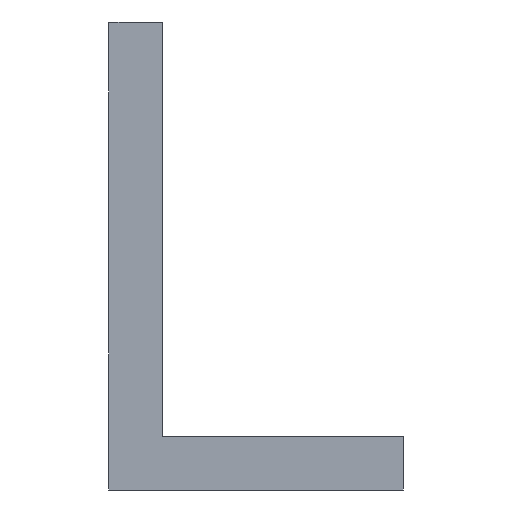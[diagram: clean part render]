
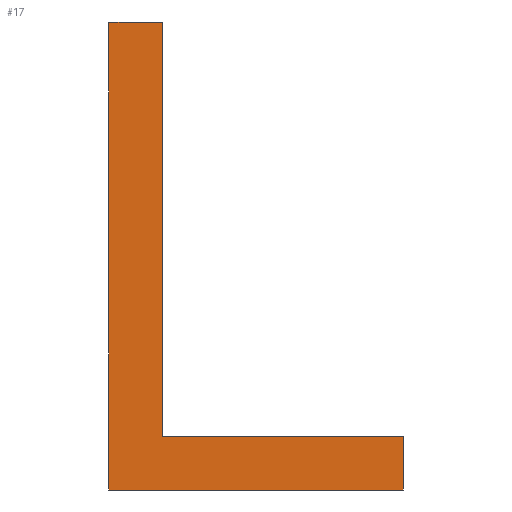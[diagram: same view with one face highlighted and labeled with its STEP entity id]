
A CAD part, left-side view. The second image highlights one B-rep face of the part: STEP entity #17.
In plain terms, the highlighted planar face has unit normal (-1, 0, 0).
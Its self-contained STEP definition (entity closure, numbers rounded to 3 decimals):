
#17 = ADVANCED_FACE('',(#18),#32,.F.);
#18 = FACE_BOUND('',#19,.F.);
#19 = EDGE_LOOP('',(#20,#55,#83,#111,#139,#167));
#20 = ORIENTED_EDGE('',*,*,#21,.F.);
#21 = EDGE_CURVE('',#22,#24,#26,.T.);
#22 = VERTEX_POINT('',#23);
#23 = CARTESIAN_POINT('',(-20.,-11.,4.));
#24 = VERTEX_POINT('',#25);
#25 = CARTESIAN_POINT('',(-20.,7.,4.));
#26 = SURFACE_CURVE('',#27,(#31,#43),.PCURVE_S1.);
#27 = LINE('',#28,#29);
#28 = CARTESIAN_POINT('',(-20.,-11.,4.));
#29 = VECTOR('',#30,1.);
#30 = DIRECTION('',(0.,1.,0.));
#31 = PCURVE('',#32,#37);
#32 = PLANE('',#33);
#33 = AXIS2_PLACEMENT_3D('',#34,#35,#36);
#34 = CARTESIAN_POINT('',(-20.,-11.,0.));
#35 = DIRECTION('',(1.,0.,0.));
#36 = DIRECTION('',(0.,0.,1.));
#37 = DEFINITIONAL_REPRESENTATION('',(#38),#42);
#38 = LINE('',#39,#40);
#39 = CARTESIAN_POINT('',(4.,0.));
#40 = VECTOR('',#41,1.);
#41 = DIRECTION('',(0.,-1.));
#42 = ( GEOMETRIC_REPRESENTATION_CONTEXT(2) 
PARAMETRIC_REPRESENTATION_CONTEXT() REPRESENTATION_CONTEXT('2D SPACE',''
  ) );
#43 = PCURVE('',#44,#49);
#44 = PLANE('',#45);
#45 = AXIS2_PLACEMENT_3D('',#46,#47,#48);
#46 = CARTESIAN_POINT('',(-20.,-11.,4.));
#47 = DIRECTION('',(0.,0.,1.));
#48 = DIRECTION('',(1.,0.,0.));
#49 = DEFINITIONAL_REPRESENTATION('',(#50),#54);
#50 = LINE('',#51,#52);
#51 = CARTESIAN_POINT('',(0.,0.));
#52 = VECTOR('',#53,1.);
#53 = DIRECTION('',(0.,1.));
#54 = ( GEOMETRIC_REPRESENTATION_CONTEXT(2) 
PARAMETRIC_REPRESENTATION_CONTEXT() REPRESENTATION_CONTEXT('2D SPACE',''
  ) );
#55 = ORIENTED_EDGE('',*,*,#56,.F.);
#56 = EDGE_CURVE('',#57,#22,#59,.T.);
#57 = VERTEX_POINT('',#58);
#58 = CARTESIAN_POINT('',(-20.,-11.,0.));
#59 = SURFACE_CURVE('',#60,(#64,#71),.PCURVE_S1.);
#60 = LINE('',#61,#62);
#61 = CARTESIAN_POINT('',(-20.,-11.,0.));
#62 = VECTOR('',#63,1.);
#63 = DIRECTION('',(0.,0.,1.));
#64 = PCURVE('',#32,#65);
#65 = DEFINITIONAL_REPRESENTATION('',(#66),#70);
#66 = LINE('',#67,#68);
#67 = CARTESIAN_POINT('',(0.,0.));
#68 = VECTOR('',#69,1.);
#69 = DIRECTION('',(1.,0.));
#70 = ( GEOMETRIC_REPRESENTATION_CONTEXT(2) 
PARAMETRIC_REPRESENTATION_CONTEXT() REPRESENTATION_CONTEXT('2D SPACE',''
  ) );
#71 = PCURVE('',#72,#77);
#72 = PLANE('',#73);
#73 = AXIS2_PLACEMENT_3D('',#74,#75,#76);
#74 = CARTESIAN_POINT('',(-20.,-11.,0.));
#75 = DIRECTION('',(0.,1.,0.));
#76 = DIRECTION('',(0.,0.,1.));
#77 = DEFINITIONAL_REPRESENTATION('',(#78),#82);
#78 = LINE('',#79,#80);
#79 = CARTESIAN_POINT('',(0.,0.));
#80 = VECTOR('',#81,1.);
#81 = DIRECTION('',(1.,0.));
#82 = ( GEOMETRIC_REPRESENTATION_CONTEXT(2) 
PARAMETRIC_REPRESENTATION_CONTEXT() REPRESENTATION_CONTEXT('2D SPACE',''
  ) );
#83 = ORIENTED_EDGE('',*,*,#84,.F.);
#84 = EDGE_CURVE('',#85,#57,#87,.T.);
#85 = VERTEX_POINT('',#86);
#86 = CARTESIAN_POINT('',(-20.,11.,0.));
#87 = SURFACE_CURVE('',#88,(#92,#99),.PCURVE_S1.);
#88 = LINE('',#89,#90);
#89 = CARTESIAN_POINT('',(-20.,11.,0.));
#90 = VECTOR('',#91,1.);
#91 = DIRECTION('',(0.,-1.,0.));
#92 = PCURVE('',#32,#93);
#93 = DEFINITIONAL_REPRESENTATION('',(#94),#98);
#94 = LINE('',#95,#96);
#95 = CARTESIAN_POINT('',(0.,-22.));
#96 = VECTOR('',#97,1.);
#97 = DIRECTION('',(0.,1.));
#98 = ( GEOMETRIC_REPRESENTATION_CONTEXT(2) 
PARAMETRIC_REPRESENTATION_CONTEXT() REPRESENTATION_CONTEXT('2D SPACE',''
  ) );
#99 = PCURVE('',#100,#105);
#100 = PLANE('',#101);
#101 = AXIS2_PLACEMENT_3D('',#102,#103,#104);
#102 = CARTESIAN_POINT('',(-20.,-11.,0.));
#103 = DIRECTION('',(0.,0.,1.));
#104 = DIRECTION('',(1.,0.,0.));
#105 = DEFINITIONAL_REPRESENTATION('',(#106),#110);
#106 = LINE('',#107,#108);
#107 = CARTESIAN_POINT('',(0.,22.));
#108 = VECTOR('',#109,1.);
#109 = DIRECTION('',(0.,-1.));
#110 = ( GEOMETRIC_REPRESENTATION_CONTEXT(2) 
PARAMETRIC_REPRESENTATION_CONTEXT() REPRESENTATION_CONTEXT('2D SPACE',''
  ) );
#111 = ORIENTED_EDGE('',*,*,#112,.F.);
#112 = EDGE_CURVE('',#113,#85,#115,.T.);
#113 = VERTEX_POINT('',#114);
#114 = CARTESIAN_POINT('',(-20.,11.,35.));
#115 = SURFACE_CURVE('',#116,(#120,#127),.PCURVE_S1.);
#116 = LINE('',#117,#118);
#117 = CARTESIAN_POINT('',(-20.,11.,35.));
#118 = VECTOR('',#119,1.);
#119 = DIRECTION('',(0.,0.,-1.));
#120 = PCURVE('',#32,#121);
#121 = DEFINITIONAL_REPRESENTATION('',(#122),#126);
#122 = LINE('',#123,#124);
#123 = CARTESIAN_POINT('',(35.,-22.));
#124 = VECTOR('',#125,1.);
#125 = DIRECTION('',(-1.,0.));
#126 = ( GEOMETRIC_REPRESENTATION_CONTEXT(2) 
PARAMETRIC_REPRESENTATION_CONTEXT() REPRESENTATION_CONTEXT('2D SPACE',''
  ) );
#127 = PCURVE('',#128,#133);
#128 = PLANE('',#129);
#129 = AXIS2_PLACEMENT_3D('',#130,#131,#132);
#130 = CARTESIAN_POINT('',(-20.,11.,0.));
#131 = DIRECTION('',(0.,1.,0.));
#132 = DIRECTION('',(0.,0.,1.));
#133 = DEFINITIONAL_REPRESENTATION('',(#134),#138);
#134 = LINE('',#135,#136);
#135 = CARTESIAN_POINT('',(35.,0.));
#136 = VECTOR('',#137,1.);
#137 = DIRECTION('',(-1.,0.));
#138 = ( GEOMETRIC_REPRESENTATION_CONTEXT(2) 
PARAMETRIC_REPRESENTATION_CONTEXT() REPRESENTATION_CONTEXT('2D SPACE',''
  ) );
#139 = ORIENTED_EDGE('',*,*,#140,.F.);
#140 = EDGE_CURVE('',#141,#113,#143,.T.);
#141 = VERTEX_POINT('',#142);
#142 = CARTESIAN_POINT('',(-20.,7.,35.));
#143 = SURFACE_CURVE('',#144,(#148,#155),.PCURVE_S1.);
#144 = LINE('',#145,#146);
#145 = CARTESIAN_POINT('',(-20.,7.,35.));
#146 = VECTOR('',#147,1.);
#147 = DIRECTION('',(0.,1.,0.));
#148 = PCURVE('',#32,#149);
#149 = DEFINITIONAL_REPRESENTATION('',(#150),#154);
#150 = LINE('',#151,#152);
#151 = CARTESIAN_POINT('',(35.,-18.));
#152 = VECTOR('',#153,1.);
#153 = DIRECTION('',(0.,-1.));
#154 = ( GEOMETRIC_REPRESENTATION_CONTEXT(2) 
PARAMETRIC_REPRESENTATION_CONTEXT() REPRESENTATION_CONTEXT('2D SPACE',''
  ) );
#155 = PCURVE('',#156,#161);
#156 = PLANE('',#157);
#157 = AXIS2_PLACEMENT_3D('',#158,#159,#160);
#158 = CARTESIAN_POINT('',(-20.,7.,35.));
#159 = DIRECTION('',(0.,0.,1.));
#160 = DIRECTION('',(1.,0.,0.));
#161 = DEFINITIONAL_REPRESENTATION('',(#162),#166);
#162 = LINE('',#163,#164);
#163 = CARTESIAN_POINT('',(0.,0.));
#164 = VECTOR('',#165,1.);
#165 = DIRECTION('',(0.,1.));
#166 = ( GEOMETRIC_REPRESENTATION_CONTEXT(2) 
PARAMETRIC_REPRESENTATION_CONTEXT() REPRESENTATION_CONTEXT('2D SPACE',''
  ) );
#167 = ORIENTED_EDGE('',*,*,#168,.F.);
#168 = EDGE_CURVE('',#24,#141,#169,.T.);
#169 = SURFACE_CURVE('',#170,(#174,#181),.PCURVE_S1.);
#170 = LINE('',#171,#172);
#171 = CARTESIAN_POINT('',(-20.,7.,0.));
#172 = VECTOR('',#173,1.);
#173 = DIRECTION('',(0.,0.,1.));
#174 = PCURVE('',#32,#175);
#175 = DEFINITIONAL_REPRESENTATION('',(#176),#180);
#176 = LINE('',#177,#178);
#177 = CARTESIAN_POINT('',(0.,-18.));
#178 = VECTOR('',#179,1.);
#179 = DIRECTION('',(1.,0.));
#180 = ( GEOMETRIC_REPRESENTATION_CONTEXT(2) 
PARAMETRIC_REPRESENTATION_CONTEXT() REPRESENTATION_CONTEXT('2D SPACE',''
  ) );
#181 = PCURVE('',#182,#187);
#182 = PLANE('',#183);
#183 = AXIS2_PLACEMENT_3D('',#184,#185,#186);
#184 = CARTESIAN_POINT('',(-20.,7.,0.));
#185 = DIRECTION('',(0.,1.,0.));
#186 = DIRECTION('',(0.,0.,1.));
#187 = DEFINITIONAL_REPRESENTATION('',(#188),#192);
#188 = LINE('',#189,#190);
#189 = CARTESIAN_POINT('',(0.,0.));
#190 = VECTOR('',#191,1.);
#191 = DIRECTION('',(1.,0.));
#192 = ( GEOMETRIC_REPRESENTATION_CONTEXT(2) 
PARAMETRIC_REPRESENTATION_CONTEXT() REPRESENTATION_CONTEXT('2D SPACE',''
  ) );
